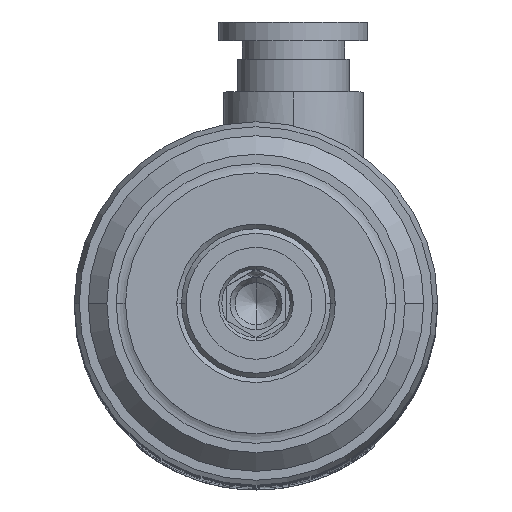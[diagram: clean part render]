
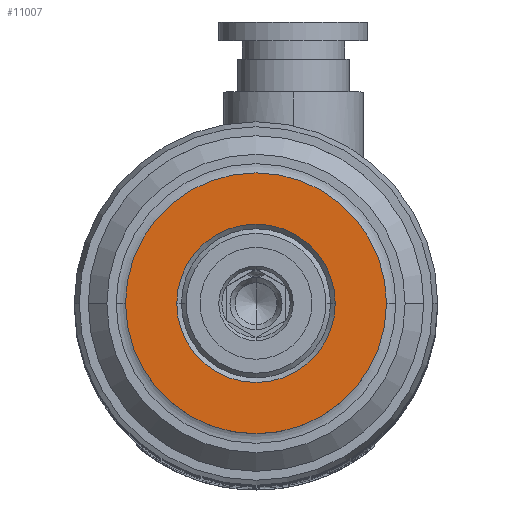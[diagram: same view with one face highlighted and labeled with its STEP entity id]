
A CAD part, top view. The second image highlights one B-rep face of the part: STEP entity #11007.
In plain terms, the highlighted planar face has unit normal (0, 0, 1).
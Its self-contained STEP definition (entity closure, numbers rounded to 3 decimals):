
#8426 = DIRECTION ( 'NONE',  ( 0., 0., -1. ) ) ;
#8427 = CARTESIAN_POINT ( 'NONE',  ( 0., 8.5, 0. ) ) ;
#8429 = AXIS2_PLACEMENT_3D ( 'NONE', #8427, #8426, #8487 ) ;
#8430 = FACE_OUTER_BOUND ( 'NONE', #10990, .T. ) ;
#8431 = FACE_BOUND ( 'NONE', #10984, .T. ) ;
#8436 = PLANE ( 'NONE',  #8429 ) ;
#8439 = DIRECTION ( 'NONE',  ( 1., 0., 0. ) ) ;
#8440 = DIRECTION ( 'NONE',  ( 0., 0., 1. ) ) ;
#8441 = CARTESIAN_POINT ( 'NONE',  ( 0., 0., 0. ) ) ;
#8442 = AXIS2_PLACEMENT_3D ( 'NONE', #8441, #8440, #8439 ) ;
#8443 = CIRCLE ( 'NONE', #8442, 14. ) ;
#8487 = DIRECTION ( 'NONE',  ( -1., 0., 0. ) ) ;
#8773 = DIRECTION ( 'NONE',  ( 1., 0., 0. ) ) ;
#8774 = DIRECTION ( 'NONE',  ( 0., 0., 1. ) ) ;
#8775 = CARTESIAN_POINT ( 'NONE',  ( 0., 0., 0. ) ) ;
#8776 = AXIS2_PLACEMENT_3D ( 'NONE', #8775, #8774, #8773 ) ;
#8777 = CIRCLE ( 'NONE', #8776, 14. ) ;
#10016 = CARTESIAN_POINT ( 'NONE',  ( -14., 0., 0. ) ) ;
#10053 = CARTESIAN_POINT ( 'NONE',  ( 8.5, 0., 0. ) ) ;
#10073 = CARTESIAN_POINT ( 'NONE',  ( 14., 0., 0. ) ) ;
#10111 = DIRECTION ( 'NONE',  ( 1., 0., 0. ) ) ;
#10113 = DIRECTION ( 'NONE',  ( 0., 0., 1. ) ) ;
#10114 = CARTESIAN_POINT ( 'NONE',  ( 0., 0., 0. ) ) ;
#10115 = AXIS2_PLACEMENT_3D ( 'NONE', #10114, #10113, #10111 ) ;
#10116 = CIRCLE ( 'NONE', #10115, 8.5 ) ;
#10118 = CARTESIAN_POINT ( 'NONE',  ( -8.5, 0., 0. ) ) ;
#10983 = ORIENTED_EDGE ( 'NONE', *, *, #11245, .T. ) ;
#10984 = EDGE_LOOP ( 'NONE', ( #10986, #10988 ) ) ;
#10985 = ORIENTED_EDGE ( 'NONE', *, *, #11002, .T. ) ;
#10986 = ORIENTED_EDGE ( 'NONE', *, *, #10987, .F. ) ;
#10987 = EDGE_CURVE ( 'NONE', #11870, #11876, #18523, .T. ) ;
#10988 = ORIENTED_EDGE ( 'NONE', *, *, #11882, .F. ) ;
#10990 = EDGE_LOOP ( 'NONE', ( #10983, #10985 ) ) ;
#11002 = EDGE_CURVE ( 'NONE', #11858, #11865, #8443, .T. ) ;
#11007 = ADVANCED_FACE ( 'NONE', ( #8431, #8430 ), #8436, .F. ) ;
#11245 = EDGE_CURVE ( 'NONE', #11865, #11858, #8777, .T. ) ;
#11858 = VERTEX_POINT ( 'NONE', #10016 ) ;
#11865 = VERTEX_POINT ( 'NONE', #10073 ) ;
#11870 = VERTEX_POINT ( 'NONE', #10053 ) ;
#11876 = VERTEX_POINT ( 'NONE', #10118 ) ;
#11882 = EDGE_CURVE ( 'NONE', #11876, #11870, #10116, .T. ) ;
#18518 = DIRECTION ( 'NONE',  ( 1., 0., 0. ) ) ;
#18520 = DIRECTION ( 'NONE',  ( 0., 0., 1. ) ) ;
#18521 = CARTESIAN_POINT ( 'NONE',  ( 0., 0., 0. ) ) ;
#18522 = AXIS2_PLACEMENT_3D ( 'NONE', #18521, #18520, #18518 ) ;
#18523 = CIRCLE ( 'NONE', #18522, 8.5 ) ;
